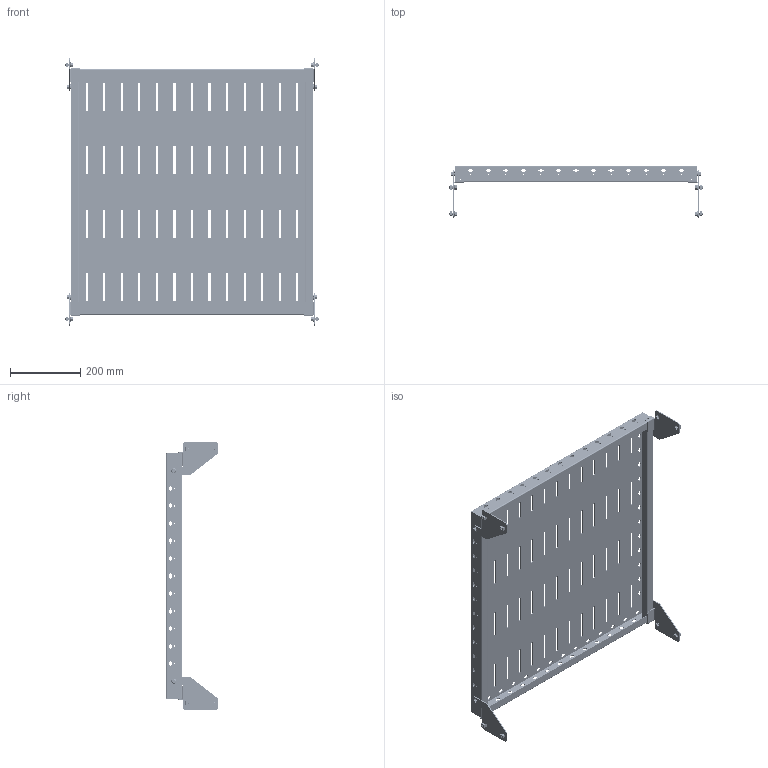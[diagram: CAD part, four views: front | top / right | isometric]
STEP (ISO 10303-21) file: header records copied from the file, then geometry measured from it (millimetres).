
FILE_DESCRIPTION (( 'STEP AP203' ), '1' );
FILE_NAME ('R5RFE88.STEP', '2022-06-29T08:42:40', ( '' ), ( '' ), 'SwSTEP 2.0', 'SolidWorks 2020', '' );
FILE_SCHEMA (( 'CONFIG_CONTROL_DESIGN' ));
Length unit declared in the file: millimetre
Products named in the file (7): Ì6 D87181 Zinc_In a tightened position (1.5 mm); RB.1704.00.00.0_- 01; M6x16 DIN 6921 cl.8,8 Zinc_thread; R5RFE88; M6 A3400002 Zinc_thread; RB.2364.00.00.0_07; RB.1704.00.00.0_-00
Assembly tree (29 placements, depth 2):
  R5RFE88
    RB.2364.00.00.0_07
    RB.1704.00.00.0_- 01  x2
    M6 A3400002 Zinc_thread  x8
    M6x16 DIN 6921 cl.8,8 Zinc_thread  x12
    RB.1704.00.00.0_-00  x2
    Ì6 D87181 Zinc_In a tightened position (1.5 mm)  x4
Bounding box: 726 x 148.6 x 765 mm (x, y, z)
Volume: 1429649 mm3; surface area: 1439483.4 mm2
Topology: 29 solids, 29 shells, 5626 faces, 15592 edges, 9972 vertices
Faces by surface type: cylinder 2324, plane 1914, cone 1076, bspline 216, torus 96
Entity records: 94538 total; most frequent: CARTESIAN_POINT 18553, DIRECTION 15983, ORIENTED_EDGE 15740, EDGE_CURVE 7870, AXIS2_PLACEMENT_3D 5667, VERTEX_POINT 5159, LINE 4649, VECTOR 4649
